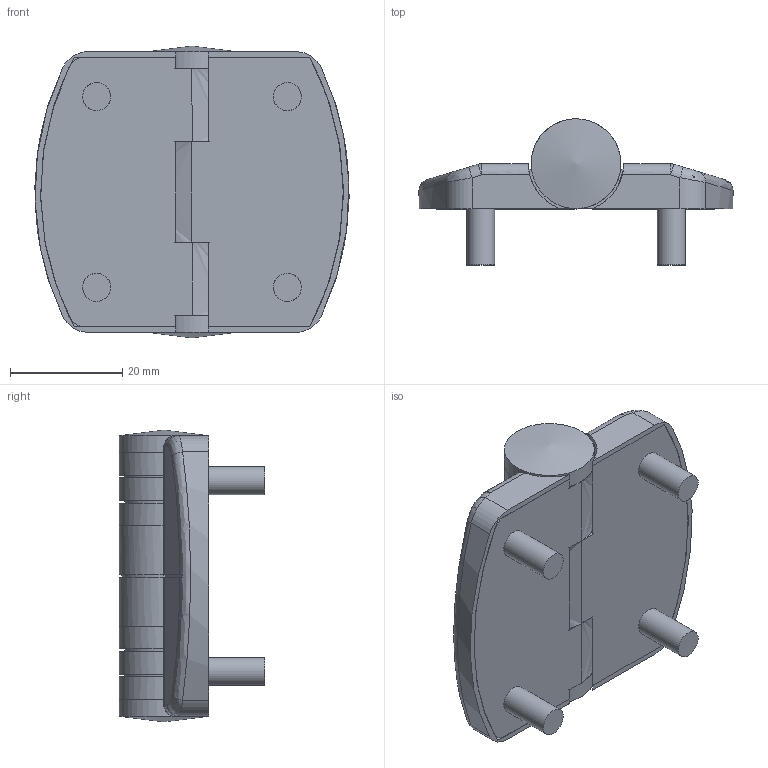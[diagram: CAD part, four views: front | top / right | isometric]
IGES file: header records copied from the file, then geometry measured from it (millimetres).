
Global section: file name: DR_H-CV045; native system: Autodesk Inventor 2015; preprocessor: unknown; author: CH.J; date: 20170824.082603; units: millimetre
Bounding box: 55.97 x 26 x 52 mm (x, y, z)
Volume: 24799.3 mm3; surface area: 18818.2 mm2
Topology: 9 solids, 9 shells, 260 faces, 657 edges, 422 vertices
Faces by surface type: bspline 260
